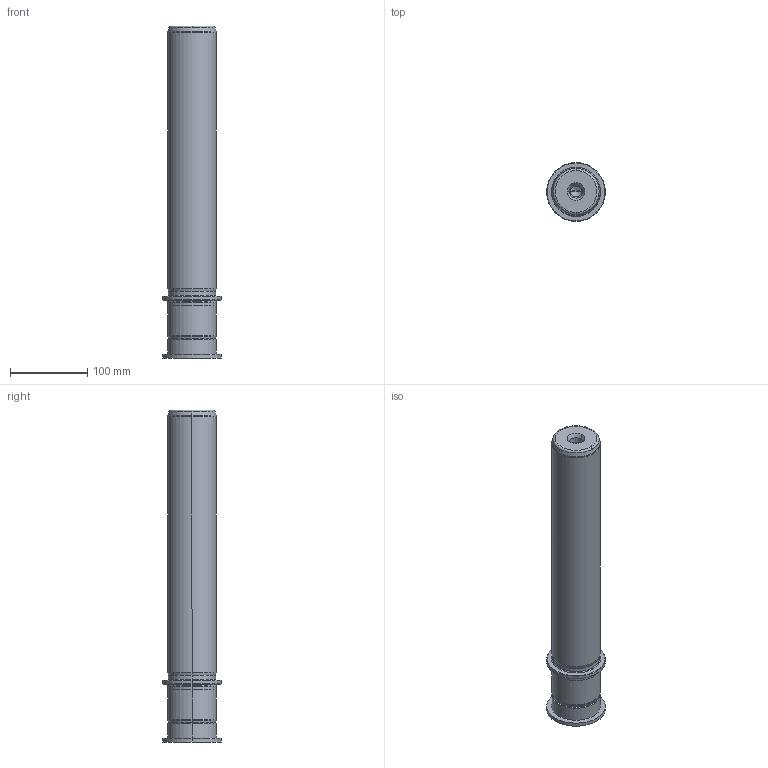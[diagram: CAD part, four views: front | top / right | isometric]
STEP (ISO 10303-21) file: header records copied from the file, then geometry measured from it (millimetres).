
FILE_DESCRIPTION((''),'2;1');
FILE_NAME('P22_063_355.stp','2009-02-06T15:53:14',(''),(''),'Mechanical Desktop 2009','Mechanical Desktop 2009',', , ');
FILE_SCHEMA(('CONFIG_CONTROL_DESIGN'));
Length unit declared in the file: millimetre
Products named in the file (2): Product; blmdl1
Assembly tree (1 placements, depth 2):
  Product
    blmdl1
Bounding box: 76 x 76 x 430 mm (x, y, z)
Volume: 1334146.4 mm3; surface area: 112422.3 mm2
Topology: 3 solids, 3 shells, 99 faces, 237 edges, 149 vertices
Faces by surface type: cylinder 32, cone 28, plane 19, torus 10, bspline 10
Entity records: 3419 total; most frequent: CARTESIAN_POINT 923, DIRECTION 570, ORIENTED_EDGE 466, AXIS2_PLACEMENT_3D 246, EDGE_CURVE 233, CIRCLE 155, VERTEX_POINT 149, EDGE_LOOP 110
